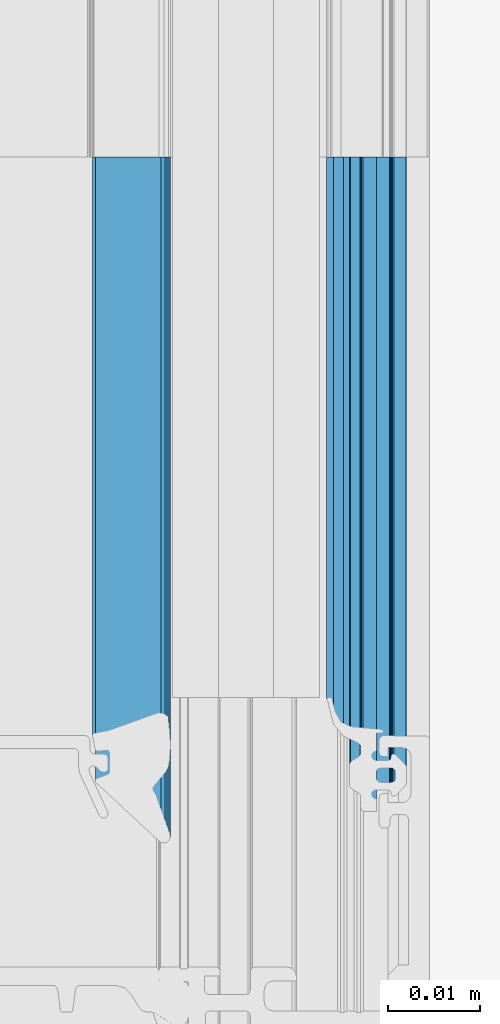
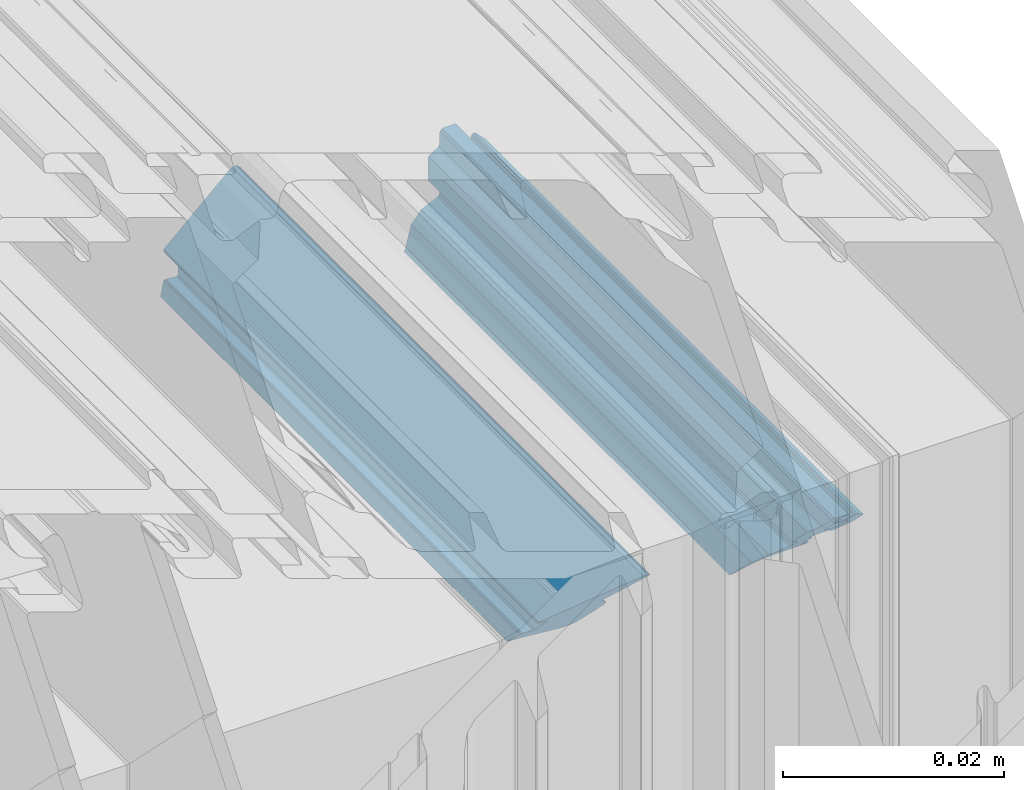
# One storey, part 54 of 65: 1 building element part, 2 elements without a shape of their own.
"""IFC2X3 building model written with IfcOpenShell, lengths in millimetres."""

from ifc_helpers import new_model, entity, si_unit, converted_unit, derived_unit, money_unit, direction, frame, origin_with_axes, place, context, subcontext, project, spatial, faceted_brep, material, type_object, element, aggregate, save


model = new_model("IFC2X3")

# Units and contexts
model_context = context("Model", 3, precision=0.01, world=origin_with_axes(), true_north=direction((0.0, 1.0)))
body_context = subcontext(model_context, "Body", "Model", "MODEL_VIEW")
ifc_project = project(units=[si_unit("LENGTHUNIT", "METRE", prefix="MILLI"), si_unit("AREAUNIT", "SQUARE_METRE"), si_unit("VOLUMEUNIT", "CUBIC_METRE"), converted_unit("PLANEANGLEUNIT", "DEGREE", entity("IfcPlaneAngleMeasure", 0.0174532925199), si_unit("PLANEANGLEUNIT", "RADIAN"), dimensions=[0, 0, 0, 0, 0, 0, 0]), si_unit("SOLIDANGLEUNIT", "STERADIAN"), money_unit("EUR"), converted_unit("TIMEUNIT", "Year", entity("IfcTimeMeasure", 31556926.0), si_unit("TIMEUNIT", "SECOND"), dimensions=[0, 0, 1, 0, 0, 0, 0]), si_unit("MASSUNIT", "GRAM", prefix="KILO"), si_unit("THERMODYNAMICTEMPERATUREUNIT", "DEGREE_CELSIUS"), si_unit("LUMINOUSINTENSITYUNIT", "LUMEN"), si_unit("ENERGYUNIT", "JOULE", prefix="MEGA"), derived_unit("THERMALCONDUCTANCEUNIT", [(si_unit("POWERUNIT", "WATT"), 1), (si_unit("LENGTHUNIT", "METRE"), -1), (si_unit("THERMODYNAMICTEMPERATUREUNIT", "KELVIN"), -1)]), derived_unit("SPECIFICHEATCAPACITYUNIT", [(si_unit("ENERGYUNIT", "JOULE"), 1), (si_unit("MASSUNIT", "GRAM", prefix="KILO"), -1), (si_unit("THERMODYNAMICTEMPERATUREUNIT", "KELVIN"), -1)]), derived_unit("MASSDENSITYUNIT", [(si_unit("MASSUNIT", "GRAM", prefix="KILO"), 1), (si_unit("VOLUMEUNIT", "CUBIC_METRE"), -1)])], contexts=[model_context])

# Site, building, storey
site_placement = place(None, origin_with_axes())
site = spatial("IfcSite", under=ifc_project, at=site_placement, Name="Puškini 31, Narva", CompositionType="ELEMENT")
building_placement = place(site_placement, origin_with_axes())
building = spatial("IfcBuilding", under=site, at=building_placement, Name="Narva Riigigümnaasium", CompositionType="ELEMENT")
storey_placement = place(building_placement, frame((0.0, 0.0, -1320.0), z_axis=(0.0, 0.0, 1.0), x_axis=(1.0, 0.0, 0.0)))
storey = spatial("IfcBuildingStorey", under=building, at=storey_placement, Name="1.korrus -1.32", CompositionType="ELEMENT", Elevation=-1320.0)

# Curtain wall, member, building element part
curtain_wall_type = type_object("IfcCurtainWallType", Name="Curtain Wall Type", PredefinedType="NOTDEFINED")
curtain_wall_placement = place(storey_placement, frame((28354.9542923, 194209.397521, 0.0), z_axis=(0.0, 0.0, 1.0), x_axis=(1.0, 0.0, 0.0)))
curtain_wall = element("IfcCurtainWall", 1, at=curtain_wall_placement, inside=storey, type_object=curtain_wall_type, Name="G-SKLF-07")
member_type = type_object("IfcMemberType", Name="61 x 45", PredefinedType="MULLION")
member_placement = place(curtain_wall_placement, frame((-0.00773685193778, -1909.4016524, 2700.0), z_axis=(-4.05197720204e-06, -0.999999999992, 0.0), x_axis=(0.0, 0.0, -1.0)))
member = element("IfcMember", 2, at=member_placement, type_object=member_type, Name="G-SKLF-25", ObjectType="MULLION")
aggregate(curtain_wall, [member])
ifc_material = material(Name="Membraan - Veekindel")
building_element_part_placement = place(member_placement, origin_with_axes())
building_element_part = element("IfcBuildingElementPart", 3, at=building_element_part_placement, material=ifc_material, Name="Membraan - Veekindel", context=body_context, shape_type="Brep", body=[
    faceted_brep([(61.0413385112, 34.3890442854, 0.0), (59.5800222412, 34.73794757, 0.0), (59.5800222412, 34.73794757, 60.4156840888), (61.0413385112, 34.3890442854, 58.9543677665), (61.1536677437, 34.1934467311, 0.0), (61.1423164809, 33.9681748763, 0.0), (61.0108941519, 33.784859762, 0.0), (60.7381535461, 33.9217644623, 0.0), (59.8409257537, 34.1343131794, 0.0), (58.2346494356, 34.5489145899, 0.0), (56.9567944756, 35.6067920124, 0.0), (56.2495873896, 37.1074172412, 0.0), (56.1542959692, 37.3107917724, 0.0), (55.9795989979, 37.4519392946, 0.0), (55.7607444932, 37.5023809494, 0.0), (55.1093263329, 37.5023809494, 0.0), (54.8593263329, 37.4353936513, 0.0), (54.676313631, 37.2523809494, 0.0), (54.2721684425, 36.5523809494, 0.0), (54.0891557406, 36.3693682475, 0.0), (53.8391557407, 36.3023809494, 0.0), (51.602145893, 36.3023809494, 0.0), (51.352145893, 36.3693682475, 0.0), (51.1691331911, 36.5523809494, 0.0), (50.7649880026, 37.2523809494, 0.0), (50.5819753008, 37.4353936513, 0.0), (50.3319753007, 37.5023809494, 0.0), (49.2206527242, 37.5023809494, 0.0), (48.9706527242, 37.5693682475, 0.0), (48.7876400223, 37.7523809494, 0.0), (48.7206527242, 38.0023809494, 0.0), (48.7206527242, 39.1999494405, 0.0), (50.10004, 39.1999494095, 0.0), (50.1670287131, 38.9499497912, 0.0), (50.3500424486, 38.7669381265, 0.0), (50.6000428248, 38.699952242, 0.0), (50.8500424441, 38.7669409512, 0.0), (51.0330541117, 38.9499546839, 0.0), (51.10004, 39.1999550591, 0.0), (51.10004, 40.4999366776, 0.0), (51.0598476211, 40.6499366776, 0.0), (50.95004, 40.7597442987, 0.0), (50.80004, 40.7999366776, 0.0), (50.7000457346, 40.7999366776, 0.0), (50.5334025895, 40.8504763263, 0.0), (50.4229059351, 40.9850671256, 0.0), (50.4057850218, 41.1583618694, 0.0), (50.4878083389, 41.3119729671, 0.0), (51.5281601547, 42.3533311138, 0.0), (51.6904310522, 42.4618421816, 0.0), (51.8818844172, 42.4999486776, 0.0), (53.517932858, 42.4999486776, 0.0), (53.7093558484, 42.4618547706, 0.0), (53.8716106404, 42.3533776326, 0.0), (54.9122350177, 41.3120206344, 0.0), (54.9942836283, 41.1584047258, 0.0), (54.9771753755, 40.9850924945, 0.0), (54.866675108, 40.850483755, 0.0), (54.7000173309, 40.7999366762, 0.0), (54.6000210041, 40.7999366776, 0.0), (54.4500210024, 40.7597443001, 0.0), (54.3402133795, 40.6499366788, 0.0), (54.300021, 40.4999366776, 0.0), (54.300021, 39.1999606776, 0.0), (54.3670082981, 38.9499606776, 0.0), (54.5500210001, 38.7669479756, 0.0), (54.8000210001, 38.6999606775, 0.0), (55.0500210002, 38.7669479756, 0.0), (55.2330337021, 38.9499606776, 0.0), (55.3000210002, 39.1999606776, 0.0), (57.3000022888, 39.1999494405, 0.0), (57.3000022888, 39.9999846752, 0.0), (57.5000161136, 39.946391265, 0.0), (57.6464370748, 39.799971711, 0.0), (57.7000324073, 39.5999584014, 0.0), (57.9693613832, 36.5265882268, 0.0), (58.4755028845, 35.3628499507, 0.0), (53.5000340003, 40.7999553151, 0.0), (53.4330491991, 41.0499459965, 0.0), (53.2500433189, 41.2329518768, 0.0), (53.0000526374, 41.299936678, 0.0), (52.4000083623, 41.299936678, 0.0), (52.150017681, 41.2329518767, 0.0), (51.9670118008, 41.0499459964, 0.0), (51.9000269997, 40.799955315, 0.0), (51.9000269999, 39.6999268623, 0.0), (51.9670129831, 39.4499317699, 0.0), (52.1500220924, 39.2669226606, 0.0), (52.4000171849, 39.1999366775, 0.0), (53.0000438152, 39.1999366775, 0.0), (53.2500389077, 39.2669226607, 0.0), (53.433048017, 39.44993177, 0.0), (58.4755028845, 35.3628499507, 61.520203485), (57.9693613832, 36.5265882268, 62.0263450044), (57.7000324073, 39.5999584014, 62.2956739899), (57.6464370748, 39.799971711, 62.3492693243), (57.5000161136, 39.946391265, 62.4956902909), (57.3000022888, 39.9999846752, 62.6957041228), (57.3000022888, 39.1999494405, 62.6957041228), (55.3000210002, 39.1999606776, 64.6956854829), (55.2330337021, 38.9499606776, 64.7626727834), (55.0500210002, 38.7669479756, 64.9456854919), (54.8000210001, 38.6999606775, 65.1956855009), (54.5500210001, 38.7669479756, 65.4456855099), (54.3670082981, 38.9499606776, 65.6286982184), (54.300021, 39.1999606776, 65.6956855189), (54.300021, 40.4999366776, 65.6956855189), (54.3402133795, 40.6499366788, 65.6554931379), (54.4500210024, 40.7597443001, 65.5456855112), (54.6000210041, 40.7999366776, 65.3956855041), (54.7000173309, 40.7999366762, 65.2956891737), (54.866675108, 40.850483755, 65.1290313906), (54.9771753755, 40.9850924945, 65.0185311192), (54.9942836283, 41.1584047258, 65.0014228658), (54.9122350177, 41.3120206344, 65.0834714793), (53.8716106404, 42.3533776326, 66.1240958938), (53.7093558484, 42.4618547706, 66.2863506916), (53.517932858, 42.4999486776, 66.4777736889), (51.8818844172, 42.4999486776, 68.1138221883), (51.6904310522, 42.4618421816, 68.3052755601), (51.5281601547, 42.3533311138, 68.4675464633), (50.4878083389, 41.3119729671, 69.5078983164), (50.4057850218, 41.1583618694, 69.5899216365), (50.4229059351, 40.9850671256, 69.5728007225), (50.5334025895, 40.8504763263, 69.4623040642), (50.7000457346, 40.7999366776, 69.2956609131), (50.80004, 40.7999366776, 69.1956666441), (50.95004, 40.7597442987, 69.0456666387), (51.0598476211, 40.6499366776, 68.9358590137), (51.10004, 40.4999366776, 68.8956666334), (51.10004, 39.1999550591, 68.8956666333), (51.0330541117, 38.9499546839, 68.9626525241), (50.8500424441, 38.7669409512, 69.1456641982), (50.6000428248, 38.699952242, 69.3956638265), (50.3500424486, 38.7669381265, 69.6456642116), (50.1670287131, 38.9499497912, 69.8286779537), (50.10004, 39.1999494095, 69.8956666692), (48.7206527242, 39.1999494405, 71.2750539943), (48.7206527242, 38.0023809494, 71.2750539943), (48.7876400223, 37.7523809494, 71.2080666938), (48.9706527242, 37.5693682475, 71.0250539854), (49.2206527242, 37.5023809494, 70.7750539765), (50.3319753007, 37.5023809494, 69.6637313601), (50.5819753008, 37.4353936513, 69.4137313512), (50.7649880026, 37.2523809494, 69.2307186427), (51.1691331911, 36.5523809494, 68.8265734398), (51.352145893, 36.3693682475, 68.6435607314), (51.602145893, 36.3023809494, 68.3935607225), (53.8391557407, 36.3023809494, 66.1565507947), (54.0891557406, 36.3693682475, 65.9065507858), (54.2721684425, 36.5523809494, 65.7235380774), (54.676313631, 37.2523809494, 65.3193928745), (54.8593263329, 37.4353936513, 65.136380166), (55.1093263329, 37.5023809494, 64.8863801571), (55.7607444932, 37.5023809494, 64.2349619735), (55.9795989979, 37.4519392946, 64.0161074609), (56.1542959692, 37.3107917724, 63.8414104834), (56.2495873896, 37.1074172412, 63.7461190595), (56.9567944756, 35.6067920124, 63.0389119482), (58.2346494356, 34.5489145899, 61.7610569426), (59.8409257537, 34.1343131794, 60.154780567), (60.7381535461, 33.9217644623, 59.2575527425), (61.0108941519, 33.784859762, 58.984812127), (61.1423164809, 33.9681748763, 58.8533897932), (61.1536677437, 34.1934467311, 58.84203853), (53.5000340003, 40.7999553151, 66.4956725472), (53.433048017, 39.44993177, 66.562658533), (53.2500389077, 39.2669226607, 66.7456676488), (53.0000438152, 39.1999366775, 66.9956627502), (52.4000171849, 39.1999366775, 67.595689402), (52.1500220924, 39.2669226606, 67.8456845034), (51.9670129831, 39.4499317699, 68.0286936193), (51.9000269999, 39.6999268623, 68.0956796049), (51.9000269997, 40.799955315, 68.0956796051), (51.9670118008, 41.0499459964, 68.0286948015), (52.150017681, 41.2329518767, 67.8456889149), (52.4000083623, 41.299936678, 67.5956982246), (53.0000526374, 41.299936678, 66.995653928), (53.2500433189, 41.2329518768, 66.7456632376), (53.4330491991, 41.0499459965, 66.5626573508)], [[[0, 1, 2, 3]], [[0, 4, 5, 6, 7, 8, 9, 10, 11, 12, 13, 14, 15, 16, 17, 18, 19, 20, 21, 22, 23, 24, 25, 26, 27, 28, 29, 30, 31, 32, 33, 34, 35, 36, 37, 38, 39, 40, 41, 42, 43, 44, 45, 46, 47, 48, 49, 50, 51, 52, 53, 54, 55, 56, 57, 58, 59, 60, 61, 62, 63, 64, 65, 66, 67, 68, 69, 70, 71, 72, 73, 74, 75, 76, 1], [77, 78, 79, 80, 81, 82, 83, 84, 85, 86, 87, 88, 89, 90, 91]], [[1, 76, 92, 2]], [[3, 2, 92, 93, 94, 95, 96, 97, 98, 99, 100, 101, 102, 103, 104, 105, 106, 107, 108, 109, 110, 111, 112, 113, 114, 115, 116, 117, 118, 119, 120, 121, 122, 123, 124, 125, 126, 127, 128, 129, 130, 131, 132, 133, 134, 135, 136, 137, 138, 139, 140, 141, 142, 143, 144, 145, 146, 147, 148, 149, 150, 151, 152, 153, 154, 155, 156, 157, 158, 159, 160, 161, 162, 163, 164], [165, 166, 167, 168, 169, 170, 171, 172, 173, 174, 175, 176, 177, 178, 179]], [[4, 0, 3, 164]], [[5, 4, 164, 163]], [[6, 5, 163, 162]], [[7, 6, 162, 161]], [[8, 7, 161, 160]], [[9, 8, 160, 159]], [[10, 9, 159, 158]], [[11, 10, 158, 157]], [[12, 11, 157, 156]], [[13, 12, 156, 155]], [[14, 13, 155, 154]], [[15, 14, 154, 153]], [[16, 15, 153, 152]], [[17, 16, 152, 151]], [[18, 17, 151, 150]], [[19, 18, 150, 149]], [[20, 19, 149, 148]], [[21, 20, 148, 147]], [[22, 21, 147, 146]], [[23, 22, 146, 145]], [[24, 23, 145, 144]], [[25, 24, 144, 143]], [[26, 25, 143, 142]], [[27, 26, 142, 141]], [[28, 27, 141, 140]], [[29, 28, 140, 139]], [[30, 29, 139, 138]], [[31, 30, 138, 137]], [[32, 31, 137, 136]], [[33, 32, 136, 135]], [[34, 33, 135, 134]], [[35, 34, 134, 133]], [[36, 35, 133, 132]], [[37, 36, 132, 131]], [[38, 37, 131, 130]], [[39, 38, 130, 129]], [[40, 39, 129, 128]], [[41, 40, 128, 127]], [[42, 41, 127, 126]], [[43, 42, 126, 125]], [[44, 43, 125, 124]], [[45, 44, 124, 123]], [[46, 45, 123, 122]], [[47, 46, 122, 121]], [[48, 47, 121, 120]], [[49, 48, 120, 119]], [[50, 49, 119, 118]], [[51, 50, 118, 117]], [[52, 51, 117, 116]], [[53, 52, 116, 115]], [[54, 53, 115, 114]], [[55, 54, 114, 113]], [[56, 55, 113, 112]], [[57, 56, 112, 111]], [[58, 57, 111, 110]], [[59, 58, 110, 109]], [[60, 59, 109, 108]], [[61, 60, 108, 107]], [[62, 61, 107, 106]], [[63, 62, 106, 105]], [[64, 63, 105, 104]], [[65, 64, 104, 103]], [[66, 65, 103, 102]], [[67, 66, 102, 101]], [[68, 67, 101, 100]], [[69, 68, 100, 99]], [[70, 69, 99, 98]], [[71, 70, 98, 97]], [[72, 71, 97, 96]], [[73, 72, 96, 95]], [[74, 73, 95, 94]], [[75, 74, 94, 93]], [[76, 75, 93, 92]], [[78, 77, 165, 179]], [[79, 78, 179, 178]], [[80, 79, 178, 177]], [[81, 80, 177, 176]], [[82, 81, 176, 175]], [[83, 82, 175, 174]], [[84, 83, 174, 173]], [[85, 84, 173, 172]], [[86, 85, 172, 171]], [[87, 86, 171, 170]], [[88, 87, 170, 169]], [[89, 88, 169, 168]], [[90, 89, 168, 167]], [[91, 90, 167, 166]], [[77, 91, 166, 165]]]),
    faceted_brep([(59.0307115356, 16.554149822, 0.0), (55.9926715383, 16.8063498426, 0.0), (55.9926715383, 16.8063498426, 64.00303492), (59.0307115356, 16.554149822, 60.964994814), (59.3884652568, 16.1092618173, 0.0), (59.5001582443, 15.5494067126, 0.0), (59.3405112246, 15.0012955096, 0.0), (57.5418652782, 10.0035930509, 0.0), (57.2632233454, 8.46932121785, 0.0), (57.1824204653, 8.36745448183, 0.0), (57.0661058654, 8.3093438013, 0.0), (56.9361285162, 8.30590490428, 0.0), (55.5361285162, 8.57803733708, 0.0), (55.4168250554, 8.62997353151, 0.0), (55.3307332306, 8.72753828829, 0.0), (55.2940485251, 8.85237785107, 0.0), (55.4099827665, 9.81272116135, 0.0), (55.3838261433, 9.9780831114, 0.0), (55.2731258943, 10.1036784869, 0.0), (55.1123574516, 10.1503930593, 0.0), (53.0580290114, 10.1503930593, 0.0), (52.8859560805, 10.0961386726, 0.0), (52.7761212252, 9.95299910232, 0.0), (52.3556584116, 8.79778701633, 0.0), (52.2574645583, 8.66326410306, 0.0), (52.1026310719, 8.60190419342, 0.0), (51.938943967, 8.6326446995, 0.0), (51.8169217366, 8.74599822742, 0.0), (45.6142070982, 15.4144760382, 0.0), (45.3418968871, 15.7688623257, 0.0), (45.3195226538, 16.2152275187, 0.0), (45.3889077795, 16.3899097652, 0.0), (45.6241929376, 16.6482027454, 0.0), (45.950966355, 16.7718696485, 0.0), (46.298307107, 16.7340705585, 0.0), (50.5536994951, 15.2121179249, 0.0), (50.8437237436, 15.0307134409, 0.0), (51.0558924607, 14.9074036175, 0.0), (51.3011765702, 14.8998814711, 0.0), (51.5205025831, 15.0099586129, 0.0), (53.1225200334, 16.3483062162, 0.0), (53.7899070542, 16.6230039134, 0.0), (53.7899070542, 16.6230039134, 66.2057994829), (53.1225200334, 16.3483062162, 66.8731865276), (51.5205025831, 15.0099586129, 68.4752040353), (51.3011765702, 14.8998814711, 68.694530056), (51.0558924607, 14.9074036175, 68.9398141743), (50.8437237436, 15.0307134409, 69.151982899), (50.5536994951, 15.2121179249, 69.4420071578), (46.298307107, 16.7340705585, 73.6973996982), (45.950966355, 16.7718696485, 74.0447404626), (45.6241929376, 16.6482027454, 74.3715138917), (45.3889077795, 16.3899097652, 74.6067990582), (45.3195226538, 16.2152275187, 74.6761841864), (45.3418968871, 15.7688623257, 74.6538099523), (45.6142070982, 15.4144760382, 74.3814997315), (51.8169217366, 8.74599822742, 68.1787848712), (51.938943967, 8.6326446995, 68.0567626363), (52.1026310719, 8.60190419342, 67.8930755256), (52.2574645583, 8.66326410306, 67.7382420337), (52.3556584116, 8.79778701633, 67.6400481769), (52.7761212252, 9.95299910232, 67.2195853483), (52.8859560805, 10.0961386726, 67.109750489), (53.0580290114, 10.1503930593, 66.9376775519), (55.1123574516, 10.1503930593, 64.8833490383), (55.2731258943, 10.1036784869, 64.7225805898), (55.3838261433, 9.9780831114, 64.6118803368), (55.4099827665, 9.81272116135, 64.5857237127), (55.2940485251, 8.85237785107, 64.7016579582), (55.3307332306, 8.72753828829, 64.6649732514), (55.4168250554, 8.62997353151, 64.5788814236), (55.5361285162, 8.57803733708, 64.4595779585), (56.9361285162, 8.30590490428, 63.0595779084), (57.0661058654, 8.3093438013, 62.9296005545), (57.1824204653, 8.36745448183, 62.8132859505), (57.2632233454, 8.46932121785, 62.7324830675), (57.5418652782, 10.0035930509, 62.4538411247), (59.3405112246, 15.0012955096, 60.655195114), (59.5001582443, 15.5494067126, 60.4955480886), (59.3884652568, 16.1092618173, 60.6072410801)], [[[0, 1, 2, 3]], [[0, 4, 5, 6, 7, 8, 9, 10, 11, 12, 13, 14, 15, 16, 17, 18, 19, 20, 21, 22, 23, 24, 25, 26, 27, 28, 29, 30, 31, 32, 33, 34, 35, 36, 37, 38, 39, 40, 41, 1]], [[1, 41, 42, 2]], [[3, 2, 42, 43, 44, 45, 46, 47, 48, 49, 50, 51, 52, 53, 54, 55, 56, 57, 58, 59, 60, 61, 62, 63, 64, 65, 66, 67, 68, 69, 70, 71, 72, 73, 74, 75, 76, 77, 78, 79]], [[4, 0, 3, 79]], [[5, 4, 79, 78]], [[6, 5, 78, 77]], [[7, 6, 77, 76]], [[8, 7, 76, 75]], [[9, 8, 75, 74]], [[10, 9, 74, 73]], [[11, 10, 73, 72]], [[12, 11, 72, 71]], [[13, 12, 71, 70]], [[14, 13, 70, 69]], [[15, 14, 69, 68]], [[16, 15, 68, 67]], [[17, 16, 67, 66]], [[18, 17, 66, 65]], [[19, 18, 65, 64]], [[20, 19, 64, 63]], [[21, 20, 63, 62]], [[22, 21, 62, 61]], [[23, 22, 61, 60]], [[24, 23, 60, 59]], [[25, 24, 59, 58]], [[26, 25, 58, 57]], [[27, 26, 57, 56]], [[28, 27, 56, 55]], [[29, 28, 55, 54]], [[30, 29, 54, 53]], [[31, 30, 53, 52]], [[32, 31, 52, 51]], [[33, 32, 51, 50]], [[34, 33, 50, 49]], [[35, 34, 49, 48]], [[36, 35, 48, 47]], [[37, 36, 47, 46]], [[38, 37, 46, 45]], [[39, 38, 45, 44]], [[40, 39, 44, 43]], [[41, 40, 43, 42]]]),
])
aggregate(member, [building_element_part])

save(model, "model.ifc")
